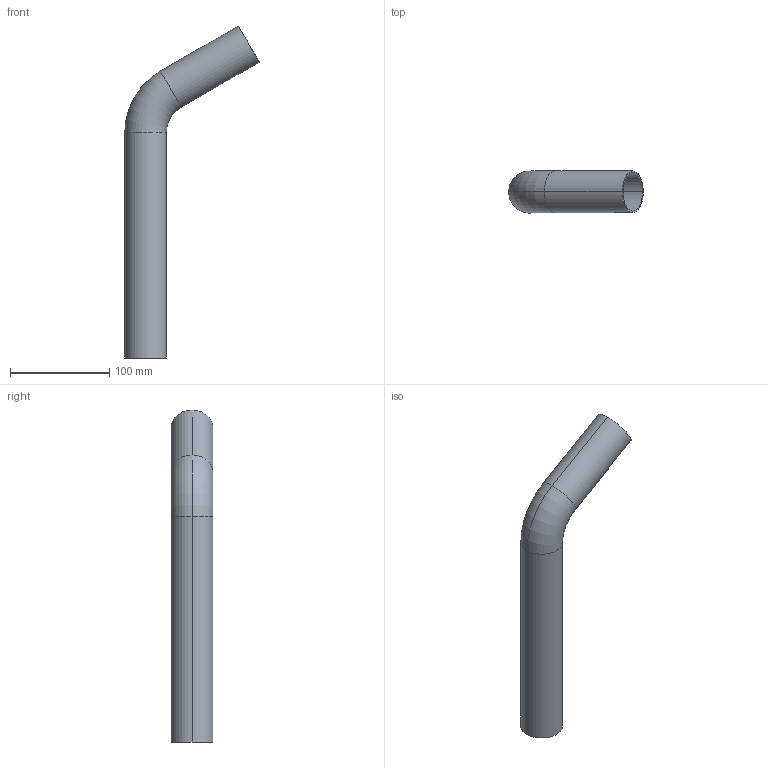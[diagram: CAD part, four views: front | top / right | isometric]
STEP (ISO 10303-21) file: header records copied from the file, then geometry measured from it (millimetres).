
FILE_DESCRIPTION(('OneSpaceDesigner STEP Export'),'2;1');
FILE_NAME('R2724 42x42.stp','2010-06-10T12:57:08',(''),(''),'OneSpace Designer STEP processor for AP214 (Solid Model)','OneSpace Modeling 15.00A 14-Mar-2007 (C) CoCreate Software GmbH','');
FILE_SCHEMA(('AUTOMOTIVE_DESIGN { 1 0 10303 214 1 1 1 1 }'));
Length unit declared in the file: millimetre
Products named in the file (2): R2724_42x42
Assembly tree (1 placements, depth 2):
  R2724_42x42
    R2724_42x42
Bounding box: 135.42 x 42 x 334.19 mm (x, y, z)
Volume: 70713.9 mm3; surface area: 94666.9 mm2
Topology: 1 solids, 1 shells, 14 faces, 30 edges, 18 vertices
Faces by surface type: cylinder 8, torus 4, plane 2
Entity records: 367 total; most frequent: ORIENTED_EDGE 60, DIRECTION 56, CARTESIAN_POINT 50, EDGE_CURVE 30, AXIS2_PLACEMENT_3D 24, VERTEX_POINT 18, EDGE_LOOP 16, CIRCLE 14
